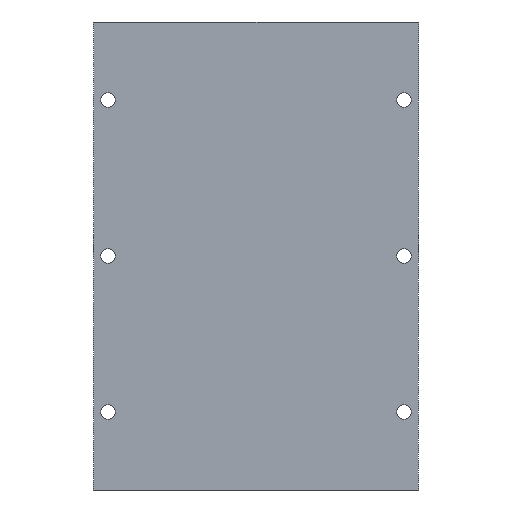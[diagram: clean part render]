
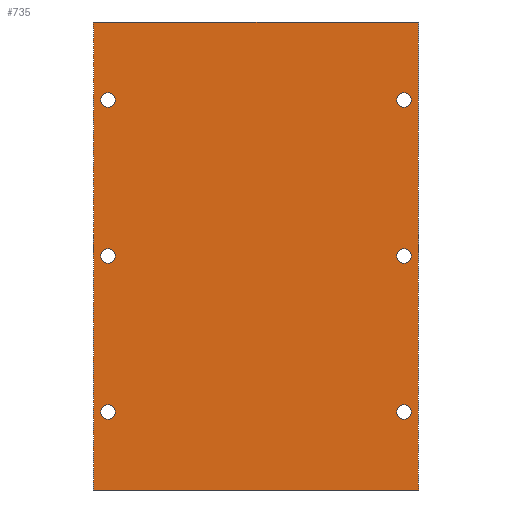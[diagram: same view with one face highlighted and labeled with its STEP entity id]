
A CAD part, front view. The second image highlights one B-rep face of the part: STEP entity #735.
In plain terms, the highlighted planar face has unit normal (0, -1, 0).
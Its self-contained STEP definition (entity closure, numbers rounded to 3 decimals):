
#2 = AXIS2_PLACEMENT_3D ( 'NONE', #684, #97, #743 ) ;
#3 = CARTESIAN_POINT ( 'NONE',  ( 50., -3., 144. ) ) ;
#6 = CARTESIAN_POINT ( 'NONE',  ( -45.5, -3., 122.25 ) ) ;
#7 = CARTESIAN_POINT ( 'NONE',  ( 45.5, -3., 21.75 ) ) ;
#23 = CARTESIAN_POINT ( 'NONE',  ( 45.5, -3., 69.75 ) ) ;
#25 = DIRECTION ( 'NONE',  ( 0., 0., 1. ) ) ;
#27 = DIRECTION ( 'NONE',  ( 1., 0., 0. ) ) ;
#29 = AXIS2_PLACEMENT_3D ( 'NONE', #70, #543, #300 ) ;
#39 = ORIENTED_EDGE ( 'NONE', *, *, #682, .F. ) ;
#42 = AXIS2_PLACEMENT_3D ( 'NONE', #615, #263, #155 ) ;
#49 = DIRECTION ( 'NONE',  ( 0., 0., -1. ) ) ;
#58 = CARTESIAN_POINT ( 'NONE',  ( 45.5, -3., 122.25 ) ) ;
#63 = EDGE_LOOP ( 'NONE', ( #219, #496 ) ) ;
#65 = CARTESIAN_POINT ( 'NONE',  ( 45.5, -3., 26.25 ) ) ;
#69 = DIRECTION ( 'NONE',  ( 0., 0., 1. ) ) ;
#70 = CARTESIAN_POINT ( 'NONE',  ( -45.5, -3., 72. ) ) ;
#71 = FACE_BOUND ( 'NONE', #335, .T. ) ;
#85 = CARTESIAN_POINT ( 'NONE',  ( -45.5, -3., 74.25 ) ) ;
#90 = DIRECTION ( 'NONE',  ( 0., 1., 0. ) ) ;
#97 = DIRECTION ( 'NONE',  ( 0., 1., 0. ) ) ;
#106 = VERTEX_POINT ( 'NONE', #397 ) ;
#110 = VECTOR ( 'NONE', #262, 1000. ) ;
#118 = AXIS2_PLACEMENT_3D ( 'NONE', #119, #776, #69 ) ;
#119 = CARTESIAN_POINT ( 'NONE',  ( 45.5, -3., 120. ) ) ;
#121 = LINE ( 'NONE', #428, #110 ) ;
#122 = DIRECTION ( 'NONE',  ( 0., 1., 0. ) ) ;
#124 = DIRECTION ( 'NONE',  ( 0., 0., 1. ) ) ;
#126 = CARTESIAN_POINT ( 'NONE',  ( 45.5, -3., 24. ) ) ;
#128 = CARTESIAN_POINT ( 'NONE',  ( -45.5, -3., 72. ) ) ;
#137 = FACE_BOUND ( 'NONE', #63, .T. ) ;
#138 = EDGE_CURVE ( 'NONE', #462, #363, #717, .T. ) ;
#141 = CIRCLE ( 'NONE', #689, 2.25 ) ;
#144 = AXIS2_PLACEMENT_3D ( 'NONE', #352, #122, #412 ) ;
#145 = ORIENTED_EDGE ( 'NONE', *, *, #138, .T. ) ;
#150 = DIRECTION ( 'NONE',  ( -1., 0., 0. ) ) ;
#151 = EDGE_CURVE ( 'NONE', #168, #201, #605, .T. ) ;
#155 = DIRECTION ( 'NONE',  ( 0., 0., 1. ) ) ;
#160 = ORIENTED_EDGE ( 'NONE', *, *, #586, .T. ) ;
#163 = AXIS2_PLACEMENT_3D ( 'NONE', #235, #778, #647 ) ;
#165 = CIRCLE ( 'NONE', #587, 2.25 ) ;
#168 = VERTEX_POINT ( 'NONE', #580 ) ;
#170 = EDGE_CURVE ( 'NONE', #332, #106, #627, .T. ) ;
#185 = ORIENTED_EDGE ( 'NONE', *, *, #170, .T. ) ;
#187 = CIRCLE ( 'NONE', #163, 2.25 ) ;
#190 = VERTEX_POINT ( 'NONE', #3 ) ;
#201 = VERTEX_POINT ( 'NONE', #58 ) ;
#203 = ORIENTED_EDGE ( 'NONE', *, *, #722, .T. ) ;
#212 = CARTESIAN_POINT ( 'NONE',  ( 50., -3., 0. ) ) ;
#219 = ORIENTED_EDGE ( 'NONE', *, *, #560, .T. ) ;
#222 = CIRCLE ( 'NONE', #548, 2.25 ) ;
#235 = CARTESIAN_POINT ( 'NONE',  ( 45.5, -3., 72. ) ) ;
#255 = FACE_OUTER_BOUND ( 'NONE', #463, .T. ) ;
#262 = DIRECTION ( 'NONE',  ( 0., 0., -1. ) ) ;
#263 = DIRECTION ( 'NONE',  ( 0., 1., 0. ) ) ;
#265 = VECTOR ( 'NONE', #27, 1000. ) ;
#274 = EDGE_CURVE ( 'NONE', #757, #540, #590, .T. ) ;
#275 = EDGE_CURVE ( 'NONE', #446, #704, #141, .T. ) ;
#277 = VERTEX_POINT ( 'NONE', #65 ) ;
#299 = VERTEX_POINT ( 'NONE', #7 ) ;
#300 = DIRECTION ( 'NONE',  ( 0., 0., 1. ) ) ;
#304 = CIRCLE ( 'NONE', #2, 2.25 ) ;
#308 = CARTESIAN_POINT ( 'NONE',  ( -45.5, -3., 21.75 ) ) ;
#313 = CARTESIAN_POINT ( 'NONE',  ( -45.5, -3., 26.25 ) ) ;
#323 = DIRECTION ( 'NONE',  ( 0., 1., 0. ) ) ;
#331 = EDGE_CURVE ( 'NONE', #540, #757, #187, .T. ) ;
#332 = VERTEX_POINT ( 'NONE', #6 ) ;
#335 = EDGE_LOOP ( 'NONE', ( #185, #574 ) ) ;
#338 = VECTOR ( 'NONE', #49, 1000. ) ;
#347 = ORIENTED_EDGE ( 'NONE', *, *, #274, .T. ) ;
#352 = CARTESIAN_POINT ( 'NONE',  ( 45.5, -3., 72. ) ) ;
#354 = EDGE_CURVE ( 'NONE', #277, #299, #222, .T. ) ;
#356 = DIRECTION ( 'NONE',  ( 0., 1., 0. ) ) ;
#358 = DIRECTION ( 'NONE',  ( 0., 1., 0. ) ) ;
#363 = VERTEX_POINT ( 'NONE', #718 ) ;
#368 = CARTESIAN_POINT ( 'NONE',  ( 45.5, -3., 120. ) ) ;
#369 = EDGE_LOOP ( 'NONE', ( #484, #542 ) ) ;
#378 = EDGE_CURVE ( 'NONE', #190, #462, #751, .T. ) ;
#397 = CARTESIAN_POINT ( 'NONE',  ( -45.5, -3., 117.75 ) ) ;
#405 = AXIS2_PLACEMENT_3D ( 'NONE', #368, #490, #25 ) ;
#408 = DIRECTION ( 'NONE',  ( 0., 1., 0. ) ) ;
#412 = DIRECTION ( 'NONE',  ( 0., 0., 1. ) ) ;
#413 = DIRECTION ( 'NONE',  ( 0., 0., 1. ) ) ;
#426 = CARTESIAN_POINT ( 'NONE',  ( -50., -3., 144. ) ) ;
#428 = CARTESIAN_POINT ( 'NONE',  ( 50., -3., 192. ) ) ;
#432 = EDGE_LOOP ( 'NONE', ( #502, #347 ) ) ;
#436 = DIRECTION ( 'NONE',  ( 0., 0., 1. ) ) ;
#439 = EDGE_CURVE ( 'NONE', #201, #168, #653, .T. ) ;
#446 = VERTEX_POINT ( 'NONE', #487 ) ;
#462 = VERTEX_POINT ( 'NONE', #426 ) ;
#463 = EDGE_LOOP ( 'NONE', ( #39, #772, #145, #466 ) ) ;
#466 = ORIENTED_EDGE ( 'NONE', *, *, #754, .T. ) ;
#471 = CARTESIAN_POINT ( 'NONE',  ( 45.5, -3., 74.25 ) ) ;
#484 = ORIENTED_EDGE ( 'NONE', *, *, #354, .T. ) ;
#487 = CARTESIAN_POINT ( 'NONE',  ( -45.5, -3., 69.75 ) ) ;
#490 = DIRECTION ( 'NONE',  ( 0., 1., 0. ) ) ;
#496 = ORIENTED_EDGE ( 'NONE', *, *, #275, .T. ) ;
#502 = ORIENTED_EDGE ( 'NONE', *, *, #331, .T. ) ;
#504 = EDGE_LOOP ( 'NONE', ( #576, #734 ) ) ;
#523 = VERTEX_POINT ( 'NONE', #212 ) ;
#526 = EDGE_CURVE ( 'NONE', #106, #332, #715, .T. ) ;
#527 = EDGE_CURVE ( 'NONE', #299, #277, #626, .T. ) ;
#540 = VERTEX_POINT ( 'NONE', #471 ) ;
#542 = ORIENTED_EDGE ( 'NONE', *, *, #527, .T. ) ;
#543 = DIRECTION ( 'NONE',  ( 0., 1., 0. ) ) ;
#548 = AXIS2_PLACEMENT_3D ( 'NONE', #126, #583, #654 ) ;
#551 = VERTEX_POINT ( 'NONE', #308 ) ;
#555 = DIRECTION ( 'NONE',  ( -1., 0., 0. ) ) ;
#559 = CARTESIAN_POINT ( 'NONE',  ( 45.5, -3., 24. ) ) ;
#560 = EDGE_CURVE ( 'NONE', #704, #446, #737, .T. ) ;
#570 = FACE_BOUND ( 'NONE', #369, .T. ) ;
#574 = ORIENTED_EDGE ( 'NONE', *, *, #526, .T. ) ;
#576 = ORIENTED_EDGE ( 'NONE', *, *, #439, .T. ) ;
#580 = CARTESIAN_POINT ( 'NONE',  ( 45.5, -3., 117.75 ) ) ;
#581 = EDGE_LOOP ( 'NONE', ( #160, #203 ) ) ;
#583 = DIRECTION ( 'NONE',  ( 0., 1., 0. ) ) ;
#586 = EDGE_CURVE ( 'NONE', #691, #551, #165, .T. ) ;
#587 = AXIS2_PLACEMENT_3D ( 'NONE', #663, #358, #656 ) ;
#588 = FACE_BOUND ( 'NONE', #504, .T. ) ;
#590 = CIRCLE ( 'NONE', #144, 2.25 ) ;
#605 = CIRCLE ( 'NONE', #118, 2.25 ) ;
#609 = CARTESIAN_POINT ( 'NONE',  ( -107.924, -3., 144. ) ) ;
#615 = CARTESIAN_POINT ( 'NONE',  ( -45.5, -3., 120. ) ) ;
#626 = CIRCLE ( 'NONE', #664, 2.25 ) ;
#627 = CIRCLE ( 'NONE', #756, 2.25 ) ;
#632 = VECTOR ( 'NONE', #555, 1000. ) ;
#641 = CARTESIAN_POINT ( 'NONE',  ( -50., -3., 192. ) ) ;
#647 = DIRECTION ( 'NONE',  ( 0., 0., 1. ) ) ;
#653 = CIRCLE ( 'NONE', #405, 2.25 ) ;
#654 = DIRECTION ( 'NONE',  ( 0., 0., 1. ) ) ;
#656 = DIRECTION ( 'NONE',  ( 0., 0., 1. ) ) ;
#663 = CARTESIAN_POINT ( 'NONE',  ( -45.5, -3., 24. ) ) ;
#664 = AXIS2_PLACEMENT_3D ( 'NONE', #559, #323, #436 ) ;
#676 = PLANE ( 'NONE',  #745 ) ;
#681 = CARTESIAN_POINT ( 'NONE',  ( 50., -3., 0. ) ) ;
#682 = EDGE_CURVE ( 'NONE', #190, #523, #121, .T. ) ;
#684 = CARTESIAN_POINT ( 'NONE',  ( -45.5, -3., 24. ) ) ;
#689 = AXIS2_PLACEMENT_3D ( 'NONE', #128, #356, #413 ) ;
#691 = VERTEX_POINT ( 'NONE', #313 ) ;
#704 = VERTEX_POINT ( 'NONE', #85 ) ;
#715 = CIRCLE ( 'NONE', #42, 2.25 ) ;
#717 = LINE ( 'NONE', #641, #338 ) ;
#718 = CARTESIAN_POINT ( 'NONE',  ( -50., -3., 0. ) ) ;
#722 = EDGE_CURVE ( 'NONE', #551, #691, #304, .T. ) ;
#725 = CARTESIAN_POINT ( 'NONE',  ( -45.5, -3., 120. ) ) ;
#734 = ORIENTED_EDGE ( 'NONE', *, *, #151, .T. ) ;
#735 = ADVANCED_FACE ( 'NONE', ( #71, #588, #137, #763, #755, #570, #255 ), #676, .F. ) ;
#737 = CIRCLE ( 'NONE', #29, 2.25 ) ;
#740 = CARTESIAN_POINT ( 'NONE',  ( 50., -3., 192. ) ) ;
#743 = DIRECTION ( 'NONE',  ( 0., 0., 1. ) ) ;
#745 = AXIS2_PLACEMENT_3D ( 'NONE', #740, #90, #150 ) ;
#749 = LINE ( 'NONE', #681, #265 ) ;
#751 = LINE ( 'NONE', #609, #632 ) ;
#754 = EDGE_CURVE ( 'NONE', #363, #523, #749, .T. ) ;
#755 = FACE_BOUND ( 'NONE', #581, .T. ) ;
#756 = AXIS2_PLACEMENT_3D ( 'NONE', #725, #408, #124 ) ;
#757 = VERTEX_POINT ( 'NONE', #23 ) ;
#763 = FACE_BOUND ( 'NONE', #432, .T. ) ;
#772 = ORIENTED_EDGE ( 'NONE', *, *, #378, .T. ) ;
#776 = DIRECTION ( 'NONE',  ( 0., 1., 0. ) ) ;
#778 = DIRECTION ( 'NONE',  ( 0., 1., 0. ) ) ;
